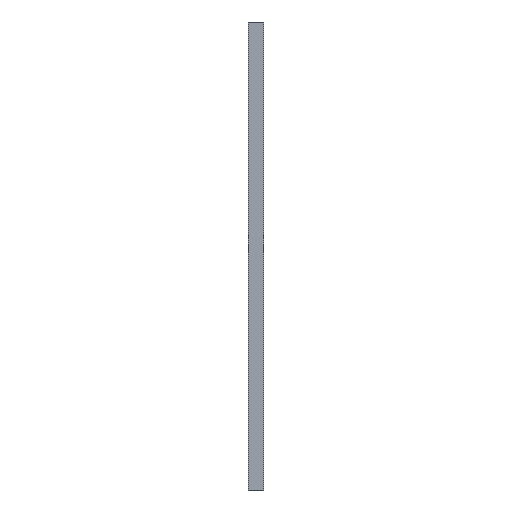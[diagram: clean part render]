
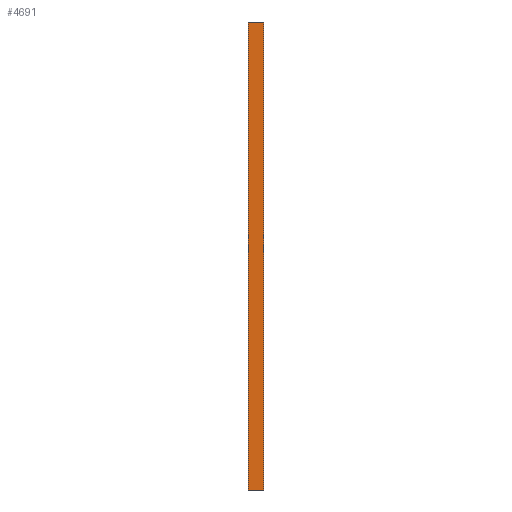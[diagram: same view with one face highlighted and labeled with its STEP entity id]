
A CAD part, left-side view. The second image highlights one B-rep face of the part: STEP entity #4691.
In plain terms, the highlighted planar face has unit normal (-1, 0, 0).
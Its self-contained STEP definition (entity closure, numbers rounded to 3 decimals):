
#258 = DIRECTION ( 'NONE',  ( 0., -1., 0. ) ) ;
#379 = CARTESIAN_POINT ( 'NONE',  ( 0., 0., 1500. ) ) ;
#394 = VECTOR ( 'NONE', #8397, 1000. ) ;
#564 = DIRECTION ( 'NONE',  ( 0., 0., -1. ) ) ;
#1324 = CARTESIAN_POINT ( 'NONE',  ( 0., 0., 1500. ) ) ;
#1477 = VECTOR ( 'NONE', #4589, 1000. ) ;
#1719 = FACE_OUTER_BOUND ( 'NONE', #4912, .T. ) ;
#1765 = CARTESIAN_POINT ( 'NONE',  ( 0., 0., 1500. ) ) ;
#1798 = EDGE_CURVE ( 'NONE', #7165, #2353, #5096, .T. ) ;
#2353 = VERTEX_POINT ( 'NONE', #4626 ) ;
#2639 = LINE ( 'NONE', #7817, #1477 ) ;
#2918 = DIRECTION ( 'NONE',  ( 1., 0., 0. ) ) ;
#3296 = ORIENTED_EDGE ( 'NONE', *, *, #3361, .T. ) ;
#3343 = ORIENTED_EDGE ( 'NONE', *, *, #4271, .F. ) ;
#3361 = EDGE_CURVE ( 'NONE', #5584, #2353, #4572, .T. ) ;
#3570 = ORIENTED_EDGE ( 'NONE', *, *, #4093, .T. ) ;
#4093 = EDGE_CURVE ( 'NONE', #5017, #5584, #2639, .T. ) ;
#4271 = EDGE_CURVE ( 'NONE', #5017, #7165, #7995, .T. ) ;
#4352 = DIRECTION ( 'NONE',  ( 0., 0., -1. ) ) ;
#4572 = LINE ( 'NONE', #5798, #394 ) ;
#4589 = DIRECTION ( 'NONE',  ( 0., 0., -1. ) ) ;
#4626 = CARTESIAN_POINT ( 'NONE',  ( 0., 0., -1500. ) ) ;
#4691 = ADVANCED_FACE ( 'NONE', ( #1719 ), #6298, .F. ) ;
#4802 = CARTESIAN_POINT ( 'NONE',  ( 0., 98., 1500. ) ) ;
#4861 = ORIENTED_EDGE ( 'NONE', *, *, #1798, .F. ) ;
#4912 = EDGE_LOOP ( 'NONE', ( #3296, #4861, #3343, #3570 ) ) ;
#5017 = VERTEX_POINT ( 'NONE', #4802 ) ;
#5096 = LINE ( 'NONE', #6337, #7736 ) ;
#5584 = VERTEX_POINT ( 'NONE', #6364 ) ;
#5798 = CARTESIAN_POINT ( 'NONE',  ( 0., 0., -1500. ) ) ;
#6298 = PLANE ( 'NONE',  #6876 ) ;
#6337 = CARTESIAN_POINT ( 'NONE',  ( 0., 0., 1500. ) ) ;
#6364 = CARTESIAN_POINT ( 'NONE',  ( 0., 98., -1500. ) ) ;
#6876 = AXIS2_PLACEMENT_3D ( 'NONE', #1765, #2918, #4352 ) ;
#7165 = VERTEX_POINT ( 'NONE', #1324 ) ;
#7566 = VECTOR ( 'NONE', #258, 1000. ) ;
#7736 = VECTOR ( 'NONE', #564, 1000. ) ;
#7817 = CARTESIAN_POINT ( 'NONE',  ( 0., 98., 1500. ) ) ;
#7995 = LINE ( 'NONE', #379, #7566 ) ;
#8397 = DIRECTION ( 'NONE',  ( 0., -1., 0. ) ) ;
